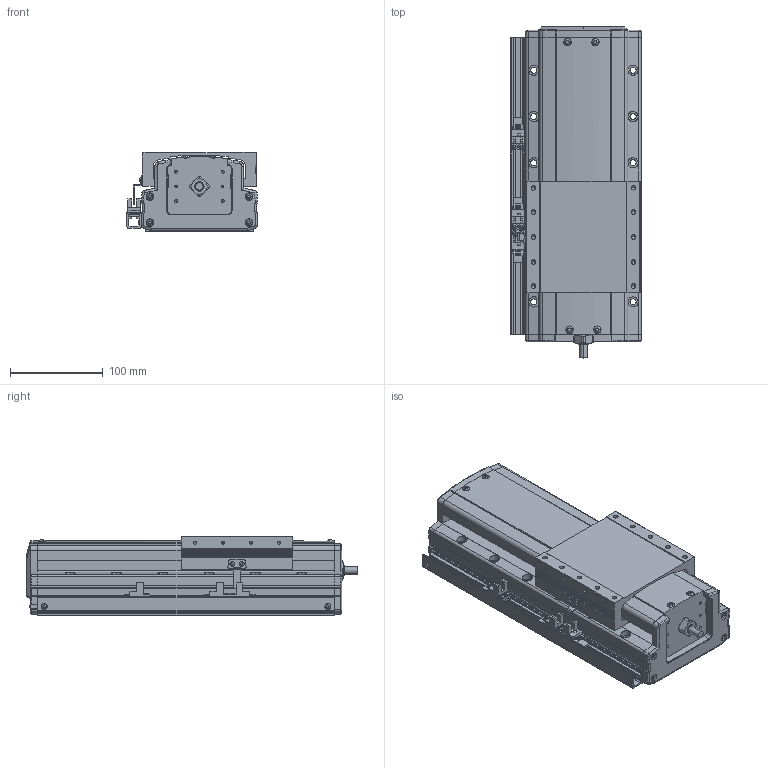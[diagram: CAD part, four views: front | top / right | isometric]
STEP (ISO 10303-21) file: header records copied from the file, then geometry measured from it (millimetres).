
FILE_DESCRIPTION(('STEP AP214'),'1');
FILE_NAME('Z:/Web/3D/PSA125/STP/PSA125-100 (3D)/PSA125ㅁㅁ-100+3SL.stp','2014-06-20T06:54:03',(' '),(' '),'Spatial InterOp 3D',' ',' ');
FILE_SCHEMA(('automotive_design'));
Length unit declared in the file: millimetre
Products named in the file (36): 스크루 : Round - M4.0 x 10.0; RRCV-PA120; SLIDE; BASE; FRCV-PA120-1(기준 뿔 제거); RR1500; 스크루 : Round - M4.0 x 6.0; 너트 : Square - M10.0 x 220.7419; EE-SX674; SBK-SX674-352; 스크루 : Round - M3.0 x 6.0; M3.0 x 6.0; SRL-16x17-380L; SGD-PA95; 스크루 : Round - M3.0 x 8.0
Bounding box: 141 x 358.1 x 86 mm (x, y, z)
Volume: 2968110.2 mm3; surface area: 345496.3 mm2
Topology: 36 solids, 36 shells, 2273 faces, 6077 edges, 3917 vertices
Faces by surface type: plane 1357, cylinder 612, cone 196, sphere 52, bspline 31, torus 25
Entity records: 91179 total; most frequent: CARTESIAN_POINT 14957, DIRECTION 12053, ORIENTED_EDGE 11954, EDGE_CURVE 5977, LINE 4145, VECTOR 4145, AXIS2_PLACEMENT_3D 3954, VERTEX_POINT 3917
